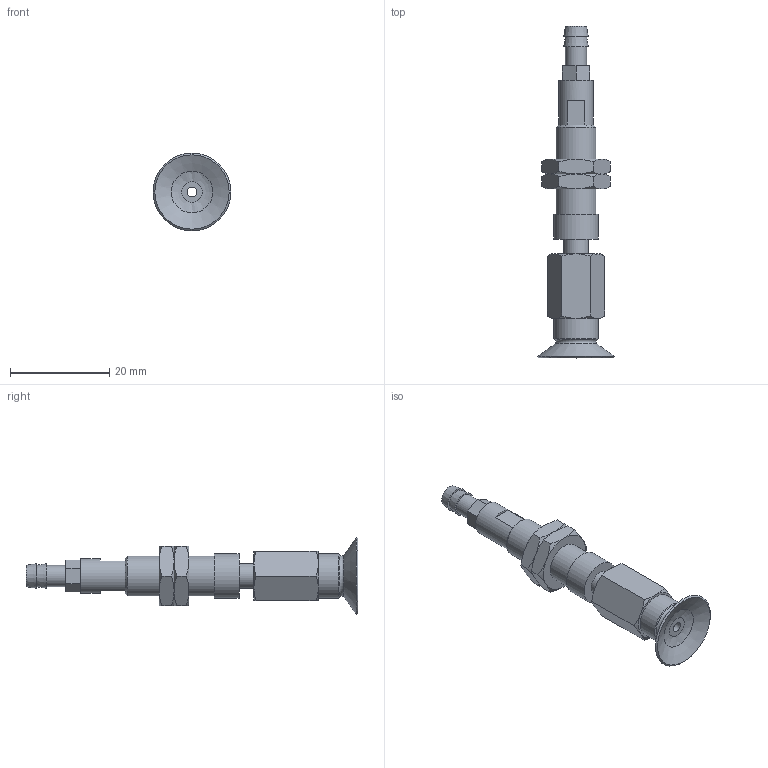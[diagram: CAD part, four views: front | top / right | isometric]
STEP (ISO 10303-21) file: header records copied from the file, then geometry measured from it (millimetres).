
FILE_DESCRIPTION(('STEP AP203'),'1');
FILE_NAME('-T.stp','2025-08-27T05:51:17',(' '),(' '),'Spatial InterOp 3D',' ',' ');
FILE_SCHEMA(('CONFIG_CONTROL_DESIGN'));
Length unit declared in the file: millimetre
Products named in the file (7): BNABPFTS-15A-3-※-T; ADAPTER; NAPATS-10A-3--M; Nut-15A-3-s; NAPFTS-15A-3-FBODY; BPFG-15A-※; T
Assembly tree (7 placements, depth 2):
  BNABPFTS-15A-3-※-T
    ADAPTER
    NAPATS-10A-3--M
    Nut-15A-3-s  x2
    NAPFTS-15A-3-FBODY
    BPFG-15A-※
    T
Bounding box: 15.7 x 67 x 15.7 mm (x, y, z)
Volume: 3673.4 mm3; surface area: 4540.5 mm2
Topology: 7 solids, 7 shells, 131 faces, 269 edges, 163 vertices
Faces by surface type: plane 53, cone 49, cylinder 19, torus 9, bspline 1
Full cylindrical faces by diameter (mm): 2 x3, 3 x1, 4 x2, 4.134 x1, 4.3 x1, 5 x3, 6 x2, 7 x1, 7.188 x2, 8 x1, 9 x2
Entity records: 3149 total; most frequent: CARTESIAN_POINT 733, DIRECTION 442, ORIENTED_EDGE 348, AXIS2_PLACEMENT_3D 201, EDGE_CURVE 174, EDGE_LOOP 170, FACE_OUTER_BOUND 136, VERTEX_POINT 128
